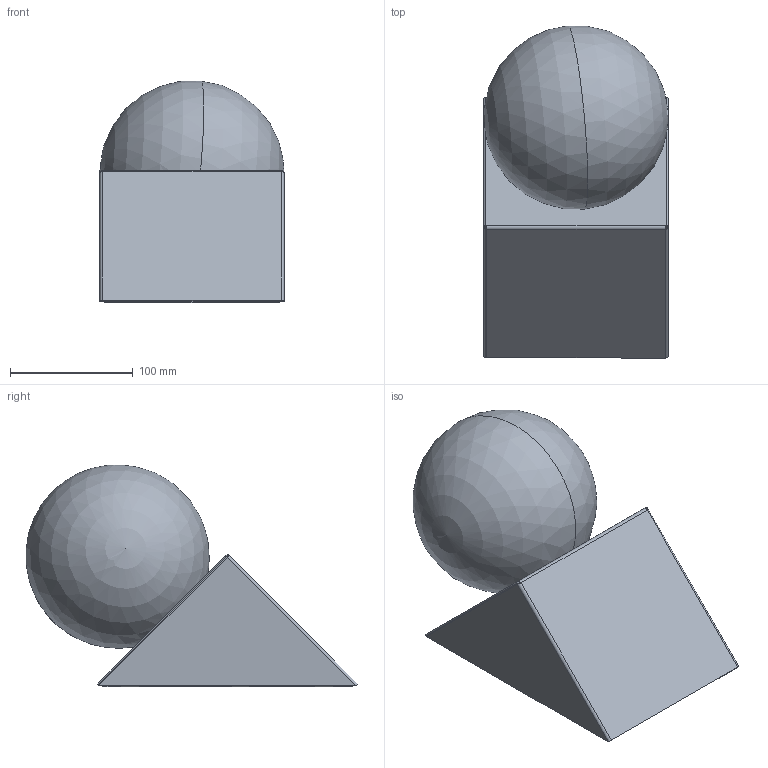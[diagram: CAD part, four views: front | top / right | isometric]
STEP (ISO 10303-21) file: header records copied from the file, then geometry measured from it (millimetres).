
FILE_DESCRIPTION (( 'STEP AP203' ), '1' );
FILE_NAME ('PEKERMAN STUDIO.STEP', '2022-03-15T08:40:32', ( '' ), ( '' ), 'SwSTEP 2.0', 'SolidWorks 2021', '' );
FILE_SCHEMA (( 'CONFIG_CONTROL_DESIGN' ));
Length unit declared in the file: millimetre
Products named in the file (5): PEKERMAN STUDIO; staffa; attacco; diffusore; scocca
Assembly tree (6 placements, depth 2):
  PEKERMAN STUDIO
    attacco
    diffusore
    staffa  x3
    scocca
Bounding box: 150 x 270.16 x 180.68 mm (x, y, z)
Volume: 324596.1 mm3; surface area: 363239.2 mm2
Topology: 6 solids, 6 shells, 343 faces, 856 edges, 520 vertices
Faces by surface type: plane 165, cylinder 148, cone 16, bspline 10, sphere 4
Entity records: 8961 total; most frequent: CARTESIAN_POINT 1714, DIRECTION 1458, ORIENTED_EDGE 1344, EDGE_CURVE 672, AXIS2_PLACEMENT_3D 530, VERTEX_POINT 410, LINE 398, VECTOR 398
